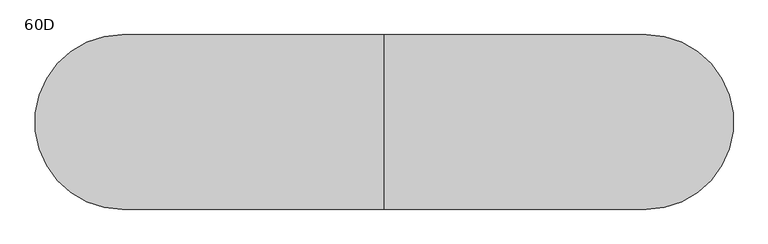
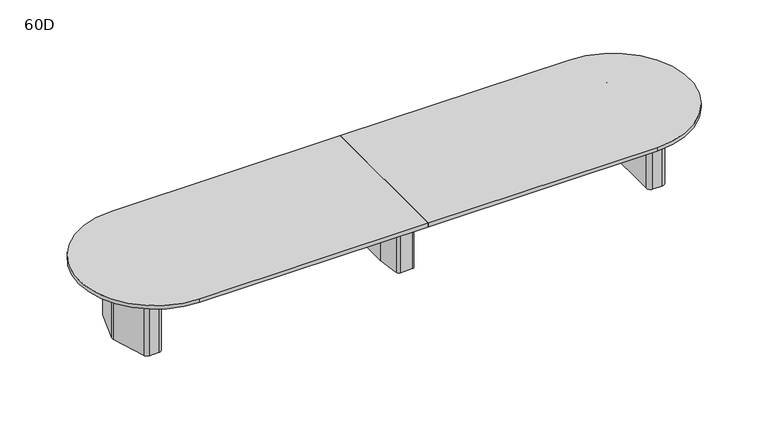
"""IFC4 building model written with IfcOpenShell, lengths in millimetres: furniture geometry, Coalesse_AM_Table_Conference_ETable2_Racetrack_20ft_ThreeBase : 60D."""

from ifc_helpers import new_model, si_unit, point, frame, frame_2d, origin, origin_with_axes, place, context, project, spatial, polyline, circle_curve, trimmed, segment, composite_curve, outline, extrude, source, transform, mapped, element, save
from ifc_brep_helpers import plane_surface, cylinder_surface, revolved_surface, advanced_brep


def furniture_60d_4b0efca1(model_context):
    return source(origin(), model_context, "Body", "SolidModel", [
        advanced_brep(
        [(61.0357815, 381.0, 698.5), (-61.0357815, 381.0, 698.5), (-86.1885994, 359.1349332, 698.5), (-117.2278179, 138.2753661, 698.5), (-117.475, 134.740433, 698.5), (-117.475, -134.7404196, 698.5), (-117.2278463, -138.2751502, 698.5), (-86.1904395, -359.1347306, 698.5), (-61.0375932, -381.0, 698.5), (61.0375932, -381.0, 698.5), (86.1904395, -359.1347306, 698.5), (117.2278463, -138.2751502, 698.5), (117.475, -134.7404196, 698.5), (117.475, 134.740433, 698.5), (117.2278179, 138.2753661, 698.5), (86.1885994, 359.1349332, 698.5), (25.4, 314.325, 698.5), (50.8, 288.925, 698.5), (50.8, -288.925, 698.5), (25.4, -314.325, 698.5), (-25.4, -314.325, 698.5), (-50.8, -288.925, 698.5), (-50.8, 288.925, 698.5), (-25.4, 314.325, 698.5), (61.0357815, 381.0, 3.175), (86.1885994, 359.1349332, 3.175), (117.2278179, 138.2753661, 3.175), (117.475, 134.740433, 3.175), (117.475, -134.7404196, 3.175), (117.2278463, -138.2751502, 3.175), (86.1904395, -359.1347306, 3.175), (61.0375932, -381.0, 3.175), (-61.0375932, -381.0, 3.175), (-86.1904395, -359.1347306, 3.175), (-117.2278463, -138.2751502, 3.175), (-117.475, -134.7404196, 3.175), (-117.475, 134.740433, 3.175), (-117.2278179, 138.2753661, 3.175), (-86.1885994, 359.1349332, 3.175), (-61.0357815, 381.0, 3.175), (25.4, 327.025, 3.175), (-25.4, 327.025, 3.175), (-63.5, 288.925, 3.175), (-63.5, -288.925, 3.175), (-25.4, -327.025, 3.175), (25.4, -327.025, 3.175), (63.5, -288.925, 3.175), (63.5, 288.925, 3.175), (25.4, 314.325, 3.175), (50.8, 288.925, 3.175), (50.8, -288.925, 3.175), (25.4, -314.325, 3.175), (-25.4, -314.325, 3.175), (-50.8, -288.925, 3.175), (-50.8, 288.925, 3.175), (-25.4, 314.325, 3.175), (25.4, 327.025, 0.0), (63.5, 288.925, 0.0), (63.5, -288.925, 0.0), (25.4, -327.025, 0.0), (-25.4, -327.025, 0.0), (-63.5, -288.925, 0.0), (-63.5, 288.925, 0.0), (-25.4, 327.025, 0.0)],
        [
            (0, 1),
            (1, 2, circle_curve(frame((-61.0357815, 355.6, 698.5), z_axis=(0.0, 0.0, 1.0), x_axis=(1.0, 0.0, 0.0)), 25.4)),
            (2, 3),
            (3, 4, circle_curve(frame((-92.075, 134.740433, 698.5), z_axis=(0.0, 0.0, 1.0), x_axis=(1.0, 0.0, 0.0)), 25.4)),
            (4, 5),
            (5, 6, circle_curve(frame((-92.075, -134.7404196, 698.5), z_axis=(0.0, 0.0, 1.0), x_axis=(1.0, 0.0, 0.0)), 25.4)),
            (6, 7),
            (7, 8, circle_curve(frame((-61.0375932, -355.6, 698.5), z_axis=(0.0, 0.0, 1.0), x_axis=(1.0, 0.0, 0.0)), 25.4)),
            (8, 9),
            (9, 10, circle_curve(frame((61.0375932, -355.6, 698.5), z_axis=(0.0, 0.0, 1.0), x_axis=(1.0, 0.0, 0.0)), 25.4)),
            (10, 11),
            (11, 12, circle_curve(frame((92.075, -134.7404196, 698.5), z_axis=(0.0, 0.0, 1.0), x_axis=(1.0, 0.0, 0.0)), 25.4)),
            (12, 13),
            (13, 14, circle_curve(frame((92.075, 134.740433, 698.5), z_axis=(0.0, 0.0, 1.0), x_axis=(1.0, 0.0, 0.0)), 25.4)),
            (14, 15),
            (15, 0, circle_curve(frame((61.0357815, 355.6, 698.5), z_axis=(0.0, 0.0, 1.0), x_axis=(1.0, 0.0, 0.0)), 25.4)),
            (16, 17, circle_curve(frame((25.4, 288.925, 698.5), z_axis=(0.0, 0.0, -1.0), x_axis=(1.0, 0.0, 0.0)), 25.4)),
            (17, 18),
            (18, 19, circle_curve(frame((25.4, -288.925, 698.5), z_axis=(0.0, 0.0, -1.0), x_axis=(1.0, 0.0, 0.0)), 25.4)),
            (19, 20),
            (20, 21, circle_curve(frame((-25.4, -288.925, 698.5), z_axis=(0.0, 0.0, -1.0), x_axis=(1.0, 0.0, 0.0)), 25.4)),
            (21, 22),
            (22, 23, circle_curve(frame((-25.4, 288.925, 698.5), z_axis=(0.0, 0.0, -1.0), x_axis=(1.0, 0.0, 0.0)), 25.4)),
            (23, 16),
            (24, 25, circle_curve(frame((61.0357815, 355.6, 3.175), z_axis=(0.0, 0.0, -1.0), x_axis=(1.0, 0.0, 0.0)), 25.4)),
            (25, 26),
            (26, 27, circle_curve(frame((92.075, 134.740433, 3.175), z_axis=(0.0, 0.0, -1.0), x_axis=(1.0, 0.0, 0.0)), 25.4)),
            (27, 28),
            (28, 29, circle_curve(frame((92.075, -134.7404196, 3.175), z_axis=(0.0, 0.0, -1.0), x_axis=(1.0, 0.0, 0.0)), 25.4)),
            (29, 30),
            (30, 31, circle_curve(frame((61.0375932, -355.6, 3.175), z_axis=(0.0, 0.0, -1.0), x_axis=(1.0, 0.0, 0.0)), 25.4)),
            (31, 32),
            (32, 33, circle_curve(frame((-61.0375932, -355.6, 3.175), z_axis=(0.0, 0.0, -1.0), x_axis=(1.0, 0.0, 0.0)), 25.4)),
            (33, 34),
            (34, 35, circle_curve(frame((-92.075, -134.7404196, 3.175), z_axis=(0.0, 0.0, -1.0), x_axis=(1.0, 0.0, 0.0)), 25.4)),
            (35, 36),
            (36, 37, circle_curve(frame((-92.075, 134.740433, 3.175), z_axis=(0.0, 0.0, -1.0), x_axis=(1.0, 0.0, 0.0)), 25.4)),
            (37, 38),
            (38, 39, circle_curve(frame((-61.0357815, 355.6, 3.175), z_axis=(0.0, 0.0, -1.0), x_axis=(1.0, 0.0, 0.0)), 25.4)),
            (39, 24),
            (40, 41),
            (41, 42, circle_curve(frame((-25.4, 288.925, 3.175), z_axis=(0.0, 0.0, 1.0), x_axis=(1.0, 0.0, 0.0)), 38.1)),
            (42, 43),
            (43, 44, circle_curve(frame((-25.4, -288.925, 3.175), z_axis=(0.0, 0.0, 1.0), x_axis=(1.0, 0.0, 0.0)), 38.1)),
            (44, 45),
            (45, 46, circle_curve(frame((25.4, -288.925, 3.175), z_axis=(0.0, 0.0, 1.0), x_axis=(1.0, 0.0, 0.0)), 38.1)),
            (46, 47),
            (47, 40, circle_curve(frame((25.4, 288.925, 3.175), z_axis=(0.0, 0.0, 1.0), x_axis=(1.0, 0.0, 0.0)), 38.1)),
            (0, 24),
            (39, 1),
            (38, 2),
            (37, 3),
            (36, 4),
            (35, 5),
            (34, 6),
            (33, 7),
            (32, 8),
            (31, 9),
            (30, 10),
            (29, 11),
            (28, 12),
            (27, 13),
            (26, 14),
            (25, 15),
            (16, 48),
            (48, 49, circle_curve(frame((25.4, 288.925, 3.175), z_axis=(0.0, 0.0, -1.0), x_axis=(1.0, 0.0, 0.0)), 25.4)),
            (49, 17),
            (49, 50),
            (50, 18),
            (50, 51, circle_curve(frame((25.4, -288.925, 3.175), z_axis=(0.0, 0.0, -1.0), x_axis=(1.0, 0.0, 0.0)), 25.4)),
            (51, 19),
            (51, 52),
            (52, 20),
            (52, 53, circle_curve(frame((-25.4, -288.925, 3.175), z_axis=(0.0, 0.0, -1.0), x_axis=(1.0, 0.0, 0.0)), 25.4)),
            (53, 21),
            (53, 54),
            (54, 22),
            (54, 55, circle_curve(frame((-25.4, 288.925, 3.175), z_axis=(0.0, 0.0, -1.0), x_axis=(1.0, 0.0, 0.0)), 25.4)),
            (55, 23),
            (55, 48),
            (56, 57, circle_curve(frame((25.4, 288.925, 0.0), z_axis=(0.0, 0.0, -1.0), x_axis=(1.0, 0.0, 0.0)), 38.1)),
            (57, 58),
            (58, 59, circle_curve(frame((25.4, -288.925, 0.0), z_axis=(0.0, 0.0, -1.0), x_axis=(1.0, 0.0, 0.0)), 38.1)),
            (59, 60),
            (60, 61, circle_curve(frame((-25.4, -288.925, 0.0), z_axis=(0.0, 0.0, -1.0), x_axis=(1.0, 0.0, 0.0)), 38.1)),
            (61, 62),
            (62, 63, circle_curve(frame((-25.4, 288.925, 0.0), z_axis=(0.0, 0.0, -1.0), x_axis=(1.0, 0.0, 0.0)), 38.1)),
            (63, 56),
            (63, 41),
            (40, 56),
            (62, 42),
            (61, 43),
            (60, 44),
            (59, 45),
            (58, 46),
            (57, 47),
        ],
        [
            plane_surface(frame((-1524.0, 381.0, 698.5), z_axis=(0.0, 0.0, 1.0), x_axis=(-1.0, 0.0, 0.0))),
            plane_surface(frame((-1524.0, 381.0, 3.175), z_axis=(0.0, 0.0, -1.0), x_axis=(1.0, 0.0, 0.0))),
            plane_surface(frame((61.0357815, 381.0, 698.5), z_axis=(0.0, 1.0, 0.0), x_axis=(0.0, 0.0, -1.0))),
            cylinder_surface(frame((-61.0357815, 355.6, 3.175), z_axis=(0.0, 0.0, 1.0), x_axis=(1.0, 0.0, 0.0)), 25.4),
            plane_surface(frame((-86.1885994, 359.1349332, 698.5), z_axis=(-0.9902684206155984, 0.13917059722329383, 0.0), x_axis=(0.0, 0.0, -1.0))),
            cylinder_surface(frame((-92.075, 134.740433, 3.175), z_axis=(0.0, 0.0, 1.0), x_axis=(1.0, 0.0, 0.0)), 25.4),
            plane_surface(frame((-117.475, 134.740433, 698.5), z_axis=(-1.0, 0.0, 0.0), x_axis=(0.0, 0.0, -1.0))),
            cylinder_surface(frame((-92.075, -134.7404196, 3.175), z_axis=(0.0, 0.0, 1.0), x_axis=(1.0, 0.0, 0.0)), 25.4),
            plane_surface(frame((-117.2278463, -138.2751502, 698.5), z_axis=(-0.9902695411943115, -0.1391626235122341, 0.0), x_axis=(0.0, 0.0, -1.0))),
            cylinder_surface(frame((-61.0375932, -355.6, 3.175), z_axis=(0.0, 0.0, 1.0), x_axis=(1.0, 0.0, 0.0)), 25.4),
            plane_surface(frame((-61.0375932, -381.0, 698.5), z_axis=(0.0, -1.0, 0.0), x_axis=(0.0, 0.0, -1.0))),
            cylinder_surface(frame((61.0375932, -355.6, 3.175), z_axis=(0.0, 0.0, 1.0), x_axis=(1.0, 0.0, 0.0)), 25.4),
            plane_surface(frame((86.1904395, -359.1347306, 698.5), z_axis=(0.9902695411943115, -0.1391626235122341, 0.0), x_axis=(0.0, 0.0, -1.0))),
            cylinder_surface(frame((92.075, -134.7404196, 3.175), z_axis=(0.0, 0.0, 1.0), x_axis=(1.0, 0.0, 0.0)), 25.4),
            plane_surface(frame((117.475, -134.7404196, 698.5), z_axis=(1.0, 0.0, 0.0), x_axis=(0.0, 0.0, -1.0))),
            cylinder_surface(frame((92.075, 134.740433, 3.175), z_axis=(0.0, 0.0, 1.0), x_axis=(1.0, 0.0, 0.0)), 25.4),
            plane_surface(frame((117.2278179, 138.2753661, 698.5), z_axis=(0.9902684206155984, 0.13917059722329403, 0.0), x_axis=(0.0, 0.0, -1.0))),
            cylinder_surface(frame((61.0357815, 355.6, 3.175), z_axis=(0.0, 0.0, 1.0), x_axis=(1.0, 0.0, 0.0)), 25.4),
            revolved_surface(polyline([(50.8, 288.925, 3.175), (50.8, 288.925, 698.5)]), (25.4, 288.925, 0.0), (0.0, 0.0, -1.0)),
            plane_surface(frame((50.8, 288.925, 698.5), z_axis=(-1.0, 0.0, 0.0), x_axis=(0.0, 0.0, -1.0))),
            revolved_surface(polyline([(50.8, -288.925, 3.175), (50.8, -288.925, 698.5)]), (25.4, -288.925, 0.0), (0.0, 0.0, -1.0)),
            plane_surface(frame((25.4, -314.325, 698.5), z_axis=(0.0, 1.0, 0.0), x_axis=(0.0, 0.0, -1.0))),
            revolved_surface(polyline([(0.0, -288.925, 3.175), (0.0, -288.925, 698.5)]), (-25.4, -288.925, 0.0), (0.0, 0.0, -1.0)),
            plane_surface(frame((-50.8, -288.925, 698.5), z_axis=(1.0, 0.0, 0.0), x_axis=(0.0, 0.0, -1.0))),
            revolved_surface(polyline([(0.0, 288.925, 3.175), (0.0, 288.925, 698.5)]), (-25.4, 288.925, 0.0), (0.0, 0.0, -1.0)),
            plane_surface(frame((-25.4, 314.325, 698.5), z_axis=(0.0, -1.0, 0.0), x_axis=(0.0, 0.0, -1.0))),
            plane_surface(frame((-50.8, 327.025, 3.175), z_axis=(0.0, 0.0, 1.0), x_axis=(-1.0, 0.0, 0.0))),
            plane_surface(frame((-50.8, 327.025, 0.0), z_axis=(0.0, 0.0, -1.0), x_axis=(1.0, 0.0, 0.0))),
            plane_surface(frame((25.4, 327.025, 3.175), z_axis=(0.0, 1.0, 0.0), x_axis=(0.0, 0.0, -1.0))),
            cylinder_surface(frame((-25.4, 288.925, 0.0), z_axis=(0.0, 0.0, 1.0), x_axis=(1.0, 0.0, 0.0)), 38.1),
            plane_surface(frame((-63.5, 288.925, 3.175), z_axis=(-1.0, 0.0, 0.0), x_axis=(0.0, 0.0, -1.0))),
            cylinder_surface(frame((-25.4, -288.925, 0.0), z_axis=(0.0, 0.0, 1.0), x_axis=(1.0, 0.0, 0.0)), 38.1),
            plane_surface(frame((-25.4, -327.025, 3.175), z_axis=(0.0, -1.0, 0.0), x_axis=(0.0, 0.0, -1.0))),
            cylinder_surface(frame((25.4, -288.925, 0.0), z_axis=(0.0, 0.0, 1.0), x_axis=(1.0, 0.0, 0.0)), 38.1),
            plane_surface(frame((63.5, -288.925, 3.175), z_axis=(1.0, 0.0, 0.0), x_axis=(0.0, 0.0, -1.0))),
            cylinder_surface(frame((25.4, 288.925, 0.0), z_axis=(0.0, 0.0, 1.0), x_axis=(1.0, 0.0, 0.0)), 38.1),
        ],
        [
            (0, [[1, 2, 3, 4, 5, 6, 7, 8, 9, 10, 11, 12, 13, 14, 15, 16], [17, 18, 19, 20, 21, 22, 23, 24]]),
            (1, [[25, 26, 27, 28, 29, 30, 31, 32, 33, 34, 35, 36, 37, 38, 39, 40], [41, 42, 43, 44, 45, 46, 47, 48]]),
            (2, [[-1, 49, -40, 50]]),
            (3, [[-2, -50, -39, 51]]),
            (4, [[-3, -51, -38, 52]]),
            (5, [[-4, -52, -37, 53]]),
            (6, [[-5, -53, -36, 54]]),
            (7, [[-6, -54, -35, 55]]),
            (8, [[-7, -55, -34, 56]]),
            (9, [[-8, -56, -33, 57]]),
            (10, [[-9, -57, -32, 58]]),
            (11, [[-10, -58, -31, 59]]),
            (12, [[-11, -59, -30, 60]]),
            (13, [[-12, -60, -29, 61]]),
            (14, [[-13, -61, -28, 62]]),
            (15, [[-14, -62, -27, 63]]),
            (16, [[-15, -63, -26, 64]]),
            (17, [[-16, -64, -25, -49]]),
            (18, [[-17, 65, 66, 67]]),
            (19, [[-18, -67, 68, 69]]),
            (20, [[-19, -69, 70, 71]]),
            (21, [[-20, -71, 72, 73]]),
            (22, [[-21, -73, 74, 75]]),
            (23, [[-22, -75, 76, 77]]),
            (24, [[-23, -77, 78, 79]]),
            (25, [[-24, -79, 80, -65]]),
            (26, [[-66, -80, -78, -76, -74, -72, -70, -68]]),
            (27, [[81, 82, 83, 84, 85, 86, 87, 88]]),
            (28, [[-88, 89, -41, 90]]),
            (29, [[-87, 91, -42, -89]]),
            (30, [[-86, 92, -43, -91]]),
            (31, [[-85, 93, -44, -92]]),
            (32, [[-84, 94, -45, -93]]),
            (33, [[-83, 95, -46, -94]]),
            (34, [[-82, 96, -47, -95]]),
            (35, [[-81, -90, -48, -96]]),
        ],
    ),
        extrude(outline(composite_curve([segment(polyline([(2646.3625, 101.7236478), (2646.3625, -97.2761514)]), True, "CONTINUOUS"), segment(trimmed(circle_curve(frame_2d((2608.2625, -97.2761514)), 38.1), [point((2646.3625, -97.2761514))], [point((2644.5991129, -108.7330515))], False, "CARTESIAN"), True, "CONTINUOUS"), segment(polyline([(2644.5991129, -108.7330515), (2586.1745591, -294.0319001)]), True, "CONTINUOUS"), segment(trimmed(circle_curve(frame_2d((2549.8379462, -282.575)), 38.1), [point((2586.1745591, -294.0319001))], [point((2549.8379462, -320.675))], False, "CARTESIAN"), True, "CONTINUOUS"), segment(polyline([(2549.8379462, -320.675), (2482.85, -320.675)]), True, "CONTINUOUS"), segment(trimmed(circle_curve(frame_2d((2482.85, -282.575)), 38.1), [point((2482.85, -320.675))], [point((2444.75, -282.575))], False, "CARTESIAN"), True, "CONTINUOUS"), segment(polyline([(2444.75, -282.575), (2444.75, 282.575)]), True, "CONTINUOUS"), segment(trimmed(circle_curve(frame_2d((2482.85, 282.575)), 38.1), [point((2444.75, 282.575))], [point((2482.85, 320.675))], False, "CARTESIAN"), True, "CONTINUOUS"), segment(polyline([(2482.85, 320.675), (2553.5873998, 320.675)]), True, "CONTINUOUS"), segment(trimmed(circle_curve(frame_2d((2553.5873998, 282.575)), 38.1), [point((2553.5873998, 320.675))], [point((2590.0572049, 293.6005756))], False, "CARTESIAN"), True, "CONTINUOUS"), segment(polyline([(2590.0572049, 293.6005756), (2644.7323051, 112.7492234)]), True, "CONTINUOUS"), segment(trimmed(circle_curve(frame_2d((2608.2625, 101.7236478)), 38.1), [point((2644.7323051, 112.7492234))], [point((2646.3625, 101.7236478))], False, "CARTESIAN"), True, "CONTINUOUS")], self_intersect=False)), origin_with_axes(), (0.0, 0.0, 1.0), 3.175),
        extrude(outline(composite_curve([segment(polyline([(2466.975, 381.0), (2555.1221663, 381.0)]), True, "CONTINUOUS"), segment(trimmed(circle_curve(frame_2d((2555.1221663, 339.725)), 41.275), [point((2555.1221663, 381.0))], [point((2594.4868303, 352.1366418))], False, "CARTESIAN"), True, "CONTINUOUS"), segment(polyline([(2594.4868303, 352.1366418), (2701.6018053, 12.4116418)]), True, "CONTINUOUS"), segment(trimmed(circle_curve(frame_2d((2662.2371413, 0.0)), 41.275), [point((2701.6018053, 12.4116418))], [point((2701.6018053, -12.4116418))], False, "CARTESIAN"), True, "CONTINUOUS"), segment(polyline([(2701.6018053, -12.4116418), (2594.4868303, -352.1366418)]), True, "CONTINUOUS"), segment(trimmed(circle_curve(frame_2d((2555.1221663, -339.725)), 41.275), [point((2594.4868303, -352.1366418))], [point((2555.1221663, -381.0))], False, "CARTESIAN"), True, "CONTINUOUS"), segment(polyline([(2555.1221663, -381.0), (2460.625, -381.0)]), True, "CONTINUOUS"), segment(trimmed(circle_curve(frame_2d((2460.625, -339.725)), 41.275), [point((2460.625, -381.0))], [point((2419.35, -339.725))], False, "CARTESIAN"), True, "CONTINUOUS"), segment(polyline([(2419.35, -339.725), (2419.35, 333.375)]), True, "CONTINUOUS"), segment(trimmed(circle_curve(frame_2d((2466.975, 333.375)), 47.625), [point((2419.35, 333.375))], [point((2466.975, 381.0))], False, "CARTESIAN"), True, "CONTINUOUS")], self_intersect=False), holes=[composite_curve([segment(trimmed(circle_curve(frame_2d((2482.85, -282.575)), 25.4), [point((2457.45, -282.575))], [point((2482.85, -307.975))], True, "CARTESIAN"), True, "CONTINUOUS"), segment(polyline([(2482.85, -307.975), (2549.8379462, -307.975)]), True, "CONTINUOUS"), segment(trimmed(circle_curve(frame_2d((2549.8379462, -282.575)), 25.4), [point((2549.8379462, -307.975))], [point((2574.0623548, -290.2129334))], True, "CARTESIAN"), True, "CONTINUOUS"), segment(polyline([(2574.0623548, -290.2129334), (2632.4869086, -104.9140848)]), True, "CONTINUOUS"), segment(trimmed(circle_curve(frame_2d((2608.2625, -97.2761514)), 25.4), [point((2632.4869086, -104.9140848))], [point((2633.6625, -97.2761514))], True, "CARTESIAN"), True, "CONTINUOUS"), segment(polyline([(2633.6625, -97.2761514), (2633.6625, 101.7236478)]), True, "CONTINUOUS"), segment(trimmed(circle_curve(frame_2d((2608.2625, 101.7236478)), 25.4), [point((2633.6625, 101.7236478))], [point((2632.5757034, 109.0740316))], True, "CARTESIAN"), True, "CONTINUOUS"), segment(polyline([(2632.5757034, 109.0740316), (2577.9006032, 289.9253837)]), True, "CONTINUOUS"), segment(trimmed(circle_curve(frame_2d((2553.5873998, 282.575)), 25.4), [point((2577.9006032, 289.9253837))], [point((2553.5873998, 307.975))], True, "CARTESIAN"), True, "CONTINUOUS"), segment(polyline([(2553.5873998, 307.975), (2482.85, 307.975)]), True, "CONTINUOUS"), segment(trimmed(circle_curve(frame_2d((2482.85, 282.575)), 25.4), [point((2482.85, 307.975))], [point((2457.45, 282.575))], True, "CARTESIAN"), True, "CONTINUOUS"), segment(polyline([(2457.45, 282.575), (2457.45, -282.575)]), True, "CONTINUOUS")], self_intersect=False)]), frame((0.0, 0.0, 3.175), z_axis=(0.0, 0.0, 1.0), x_axis=(1.0, 0.0, 0.0)), (0.0, 0.0, 1.0), 695.325),
        extrude(outline(composite_curve([segment(trimmed(circle_curve(frame_2d((-2619.375, 101.7236478)), 38.1), [point((-2657.475, 101.7236478))], [point((-2655.8448051, 112.7492234))], False, "CARTESIAN"), True, "CONTINUOUS"), segment(polyline([(-2655.8448051, 112.7492234), (-2601.1697049, 293.6005756)]), True, "CONTINUOUS"), segment(trimmed(circle_curve(frame_2d((-2564.6998998, 282.575)), 38.1), [point((-2601.1697049, 293.6005756))], [point((-2564.6998998, 320.675))], False, "CARTESIAN"), True, "CONTINUOUS"), segment(polyline([(-2564.6998998, 320.675), (-2493.9625, 320.675)]), True, "CONTINUOUS"), segment(trimmed(circle_curve(frame_2d((-2493.9625, 282.575)), 38.1), [point((-2493.9625, 320.675))], [point((-2455.8625, 282.575))], False, "CARTESIAN"), True, "CONTINUOUS"), segment(polyline([(-2455.8625, 282.575), (-2455.8625, -282.575)]), True, "CONTINUOUS"), segment(trimmed(circle_curve(frame_2d((-2493.9625, -282.575)), 38.1), [point((-2455.8625, -282.575))], [point((-2493.9625, -320.675))], False, "CARTESIAN"), True, "CONTINUOUS"), segment(polyline([(-2493.9625, -320.675), (-2560.9504462, -320.675)]), True, "CONTINUOUS"), segment(trimmed(circle_curve(frame_2d((-2560.9504462, -282.575)), 38.1), [point((-2560.9504462, -320.675))], [point((-2597.2870591, -294.0319001))], False, "CARTESIAN"), True, "CONTINUOUS"), segment(polyline([(-2597.2870591, -294.0319001), (-2655.7116129, -108.7330515)]), True, "CONTINUOUS"), segment(trimmed(circle_curve(frame_2d((-2619.375, -97.2761514)), 38.1), [point((-2655.7116129, -108.7330515))], [point((-2657.475, -97.2761514))], False, "CARTESIAN"), True, "CONTINUOUS"), segment(polyline([(-2657.475, -97.2761514), (-2657.475, 101.7236478)]), True, "CONTINUOUS")], self_intersect=False)), origin_with_axes(), (0.0, 0.0, 1.0), 3.175),
        extrude(outline(composite_curve([segment(trimmed(circle_curve(frame_2d((-2478.0875, 333.375)), 47.625), [point((-2478.0875, 381.0))], [point((-2430.4625, 333.375))], False, "CARTESIAN"), True, "CONTINUOUS"), segment(polyline([(-2430.4625, 333.375), (-2430.4625, -339.725)]), True, "CONTINUOUS"), segment(trimmed(circle_curve(frame_2d((-2471.7375, -339.725)), 41.275), [point((-2430.4625, -339.725))], [point((-2471.7375, -381.0))], False, "CARTESIAN"), True, "CONTINUOUS"), segment(polyline([(-2471.7375, -381.0), (-2566.2346663, -381.0)]), True, "CONTINUOUS"), segment(trimmed(circle_curve(frame_2d((-2566.2346663, -339.725)), 41.275), [point((-2566.2346663, -381.0))], [point((-2605.5993303, -352.1366418))], False, "CARTESIAN"), True, "CONTINUOUS"), segment(polyline([(-2605.5993303, -352.1366418), (-2712.7143053, -12.4116418)]), True, "CONTINUOUS"), segment(trimmed(circle_curve(frame_2d((-2673.3496413, 0.0)), 41.275), [point((-2712.7143053, -12.4116418))], [point((-2712.7143053, 12.4116418))], False, "CARTESIAN"), True, "CONTINUOUS"), segment(polyline([(-2712.7143053, 12.4116418), (-2605.5993303, 352.1366418)]), True, "CONTINUOUS"), segment(trimmed(circle_curve(frame_2d((-2566.2346663, 339.725)), 41.275), [point((-2605.5993303, 352.1366418))], [point((-2566.2346663, 381.0))], False, "CARTESIAN"), True, "CONTINUOUS"), segment(polyline([(-2566.2346663, 381.0), (-2478.0875, 381.0)]), True, "CONTINUOUS")], self_intersect=False), holes=[composite_curve([segment(polyline([(-2468.5625, -282.575), (-2468.5625, 282.575)]), True, "CONTINUOUS"), segment(trimmed(circle_curve(frame_2d((-2493.9625, 282.575)), 25.4), [point((-2468.5625, 282.575))], [point((-2493.9625, 307.975))], True, "CARTESIAN"), True, "CONTINUOUS"), segment(polyline([(-2493.9625, 307.975), (-2564.6998998, 307.975)]), True, "CONTINUOUS"), segment(trimmed(circle_curve(frame_2d((-2564.6998998, 282.575)), 25.4), [point((-2564.6998998, 307.975))], [point((-2589.0131032, 289.9253837))], True, "CARTESIAN"), True, "CONTINUOUS"), segment(polyline([(-2589.0131032, 289.9253837), (-2643.6882034, 109.0740316)]), True, "CONTINUOUS"), segment(trimmed(circle_curve(frame_2d((-2619.375, 101.7236478)), 25.4), [point((-2643.6882034, 109.0740316))], [point((-2644.775, 101.7236478))], True, "CARTESIAN"), True, "CONTINUOUS"), segment(polyline([(-2644.775, 101.7236478), (-2644.775, -97.2761514)]), True, "CONTINUOUS"), segment(trimmed(circle_curve(frame_2d((-2619.375, -97.2761514)), 25.4), [point((-2644.775, -97.2761514))], [point((-2643.5994086, -104.9140848))], True, "CARTESIAN"), True, "CONTINUOUS"), segment(polyline([(-2643.5994086, -104.9140848), (-2585.1748548, -290.2129334)]), True, "CONTINUOUS"), segment(trimmed(circle_curve(frame_2d((-2560.9504462, -282.575)), 25.4), [point((-2585.1748548, -290.2129334))], [point((-2560.9504462, -307.975))], True, "CARTESIAN"), True, "CONTINUOUS"), segment(polyline([(-2560.9504462, -307.975), (-2493.9625, -307.975)]), True, "CONTINUOUS"), segment(trimmed(circle_curve(frame_2d((-2493.9625, -282.575)), 25.4), [point((-2493.9625, -307.975))], [point((-2468.5625, -282.575))], True, "CARTESIAN"), True, "CONTINUOUS")], self_intersect=False)]), frame((0.0, 0.0, 3.175), z_axis=(0.0, 0.0, 1.0), x_axis=(1.0, 0.0, 0.0)), (0.0, 0.0, 1.0), 695.325),
        extrude(outline(composite_curve([segment(trimmed(circle_curve(frame_2d((2286.0, 0.0)), 762.0), [point((2286.0, 762.0))], [point((2286.0, -762.0))], False, "CARTESIAN"), True, "CONTINUOUS"), segment(polyline([(2286.0, -762.0), (0.0, -762.0), (0.0, 762.0), (2286.0, 762.0)]), True, "CONTINUOUS")], self_intersect=False)), frame((0.0, 0.0, 698.5), z_axis=(0.0, 0.0, 1.0), x_axis=(1.0, 0.0, 0.0)), (0.0, 0.0, 1.0), 38.1),
        extrude(outline(composite_curve([segment(polyline([(0.0, 762.0), (0.0, -762.0), (-2286.0, -762.0)]), True, "CONTINUOUS"), segment(trimmed(circle_curve(frame_2d((-2286.0, 0.0)), 762.0), [point((-2286.0, -762.0))], [point((-2286.0, 762.0))], False, "CARTESIAN"), True, "CONTINUOUS"), segment(polyline([(-2286.0, 762.0), (0.0, 762.0)]), True, "CONTINUOUS")], self_intersect=False)), frame((0.0, 0.0, 698.5), z_axis=(0.0, 0.0, 1.0), x_axis=(1.0, 0.0, 0.0)), (0.0, 0.0, 1.0), 38.1),
        extrude(outline(polyline([(96.8375, 698.5), (103.1875, 698.5), (103.1875, 476.25), (-103.1875, 476.25), (-103.1875, 698.5), (-96.8375, 698.5), (-96.8375, 482.6), (96.8375, 482.6), (96.8375, 698.5)])), frame((-2430.4625, 0.0, 0.0), z_axis=(1.0, 0.0, 0.0), x_axis=(0.0, 1.0, 0.0)), (0.0, 0.0, 1.0), 4849.8125),
    ])


if __name__ == "__main__":
    model = new_model("IFC4")
    model_context = context("Model", 3, world=origin())
    ifc_project = project(units=[si_unit("LENGTHUNIT", "METRE", prefix="MILLI")], contexts=[model_context])
    site = spatial("IfcSite", under=ifc_project)
    building = spatial("IfcBuilding", under=site)
    placement = place(None, origin())
    furniture_60d_shape = furniture_60d_4b0efca1(model_context)
    element("IfcFurniture", 1, ObjectType="Coalesse_AM_Table_Conference_ETable2_Racetrack_20ft_ThreeBase : 60D", at=placement, inside=building, context=model_context, shape_type="MappedRepresentation", body=[
        mapped(furniture_60d_shape, transform((0.0, 0.0, 0.0), x_axis=(1.0, 0.0, 0.0), y_axis=(0.0, 1.0, 0.0), z_axis=(0.0, 0.0, 1.0))),
    ])
    save(model, "model.ifc")
